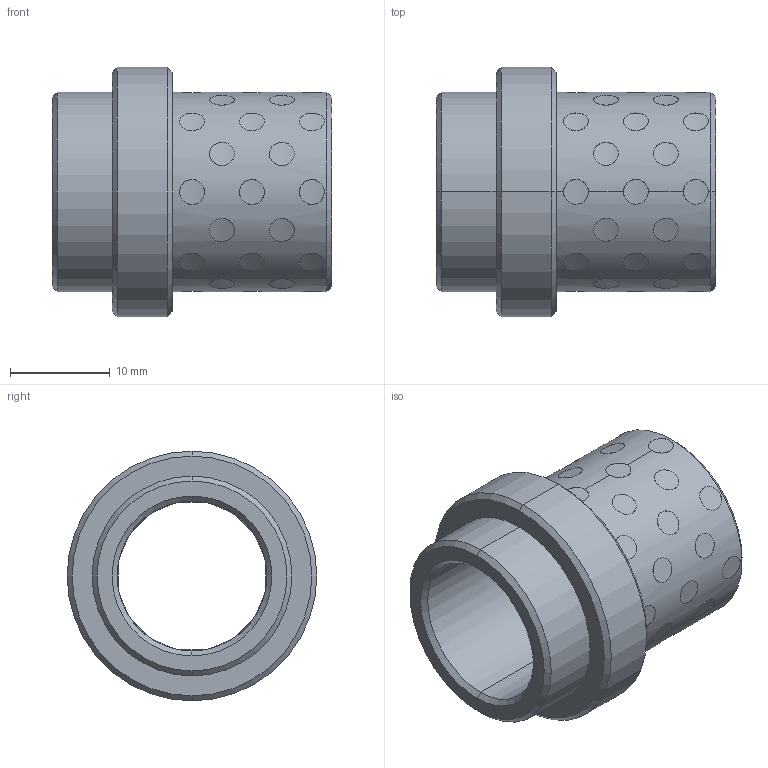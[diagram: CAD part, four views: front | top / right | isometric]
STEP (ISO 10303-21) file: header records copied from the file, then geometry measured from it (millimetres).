
FILE_DESCRIPTION((''),'2;1');
FILE_NAME('G31215022','2017-12-30T',('MANU'),(''),'PRO/ENGINEER BY PARAMETRIC TECHNOLOGY CORPORATION, 2012130','PRO/ENGINEER BY PARAMETRIC TECHNOLOGY CORPORATION, 2012130','');
FILE_SCHEMA(('CONFIG_CONTROL_DESIGN'));
Length unit declared in the file: millimetre
Products named in the file (1): G31215022
Bounding box: 28 x 25 x 25 mm (x, y, z)
Volume: 4856 mm3; surface area: 5259.8 mm2
Topology: 41 solids, 41 shells, 264 faces, 564 edges, 372 vertices
Faces by surface type: cylinder 248, cone 12, plane 4
Entity records: 11352 total; most frequent: CARTESIAN_POINT 6138, ORIENTED_EDGE 1128, DIRECTION 776, EDGE_CURVE 564, VERTEX_POINT 372, B_SPLINE_CURVE_WITH_KNOTS 344, EDGE_LOOP 336, AXIS2_PLACEMENT_3D 292
